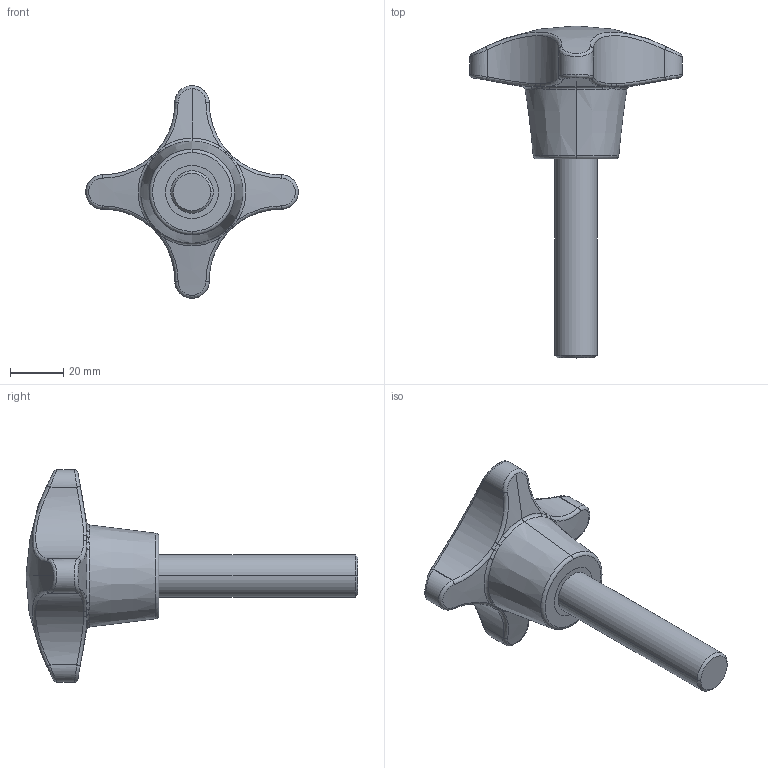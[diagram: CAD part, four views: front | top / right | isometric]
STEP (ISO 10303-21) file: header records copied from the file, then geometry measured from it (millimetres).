
FILE_DESCRIPTION (( 'STEP AP214' ), '1' );
FILE_NAME ('1121 80 502.STEP', '2010-11-26T16:14:41', ( 'Marc' ), ( '' ), 'SwSTEP 2.0', 'SolidWorks 2010', '' );
FILE_SCHEMA (( 'AUTOMOTIVE_DESIGN' ));
Length unit declared in the file: millimetre
Products named in the file (1): 1121 80 502
Bounding box: 80 x 125 x 80 mm (x, y, z)
Volume: 92955.9 mm3; surface area: 16794.8 mm2
Topology: 2 solids, 2 shells, 87 faces, 199 edges, 119 vertices
Faces by surface type: bspline 36, cylinder 23, torus 11, cone 9, plane 6, sphere 2
Entity records: 15041 total; most frequent: CARTESIAN_POINT 13075, ORIENTED_EDGE 398, DIRECTION 304, EDGE_CURVE 199, AXIS2_PLACEMENT_3D 138, VERTEX_POINT 119, EDGE_LOOP 90, ADVANCED_FACE 87
